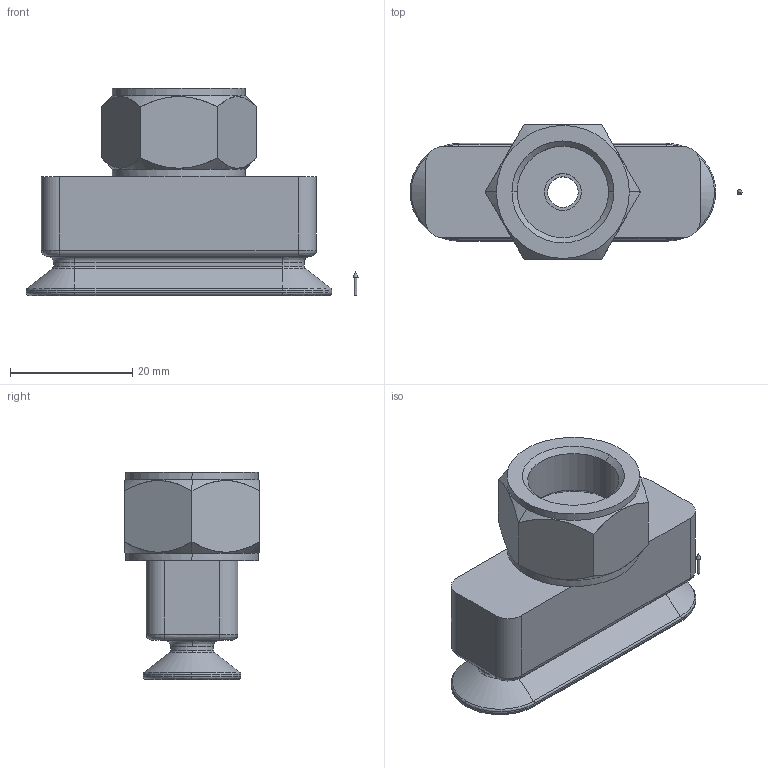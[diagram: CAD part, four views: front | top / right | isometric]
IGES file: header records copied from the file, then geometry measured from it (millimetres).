
Start section: 3D InterOp IGES (v. 2018 1.0.2), Spatial Corp. Copyright (c) 1999-2017.
Global section: file name: schmalz_10_01_05_00518_3fsjc4qpm1k8wnikcmxpzylp4.igs; native system: Spatial Corp.; preprocessor: 3D InterOp ACIS/IGES; author: TraceParts; organization: TraceParts S.A.; date: 20181026.080326; units: millimetre
Bounding box: 54.3 x 22 x 34 mm (x, y, z)
Surface area: 6258.6 mm2 (no closed solid volume)
Topology: 0 solids, 0 shells, 110 faces, 486 edges, 484 vertices
Faces by surface type: revolution 76, extrusion 34
